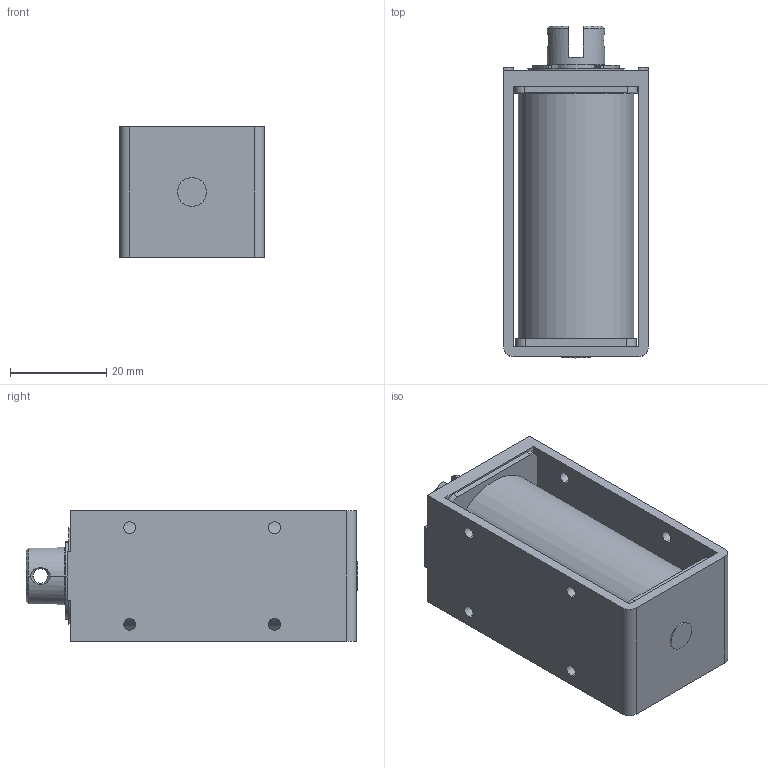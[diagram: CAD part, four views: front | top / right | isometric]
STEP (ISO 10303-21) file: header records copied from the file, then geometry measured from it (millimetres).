
FILE_DESCRIPTION (( 'STEP AP203' ), '1' );
FILE_NAME ('w_ca1260.STEP', '2014-07-14T03:08:34', ( 'jiba' ), ( 'Hewlett-Packard Company' ), 'SwSTEP 2.0', 'SolidWorks 2014', '' );
FILE_SCHEMA (( 'CONFIG_CONTROL_DESIGN' ));
Length unit declared in the file: millimetre
Products named in the file (3): Part30^w_ca1260; Part1^w_ca1260_pl; w_ca1260
Assembly tree (2 placements, depth 2):
  w_ca1260
    Part30^w_ca1260
    Part1^w_ca1260_pl
Bounding box: 30 x 68.8 x 27 mm (x, y, z)
Volume: 35446.3 mm3; surface area: 24458.5 mm2
Topology: 2 solids, 2 shells, 131 faces, 348 edges, 225 vertices
Faces by surface type: cylinder 69, plane 55, cone 7
Entity records: 4580 total; most frequent: CARTESIAN_POINT 825, DIRECTION 773, ORIENTED_EDGE 696, EDGE_CURVE 348, AXIS2_PLACEMENT_3D 297, VERTEX_POINT 225, VECTOR 179, LINE 179
